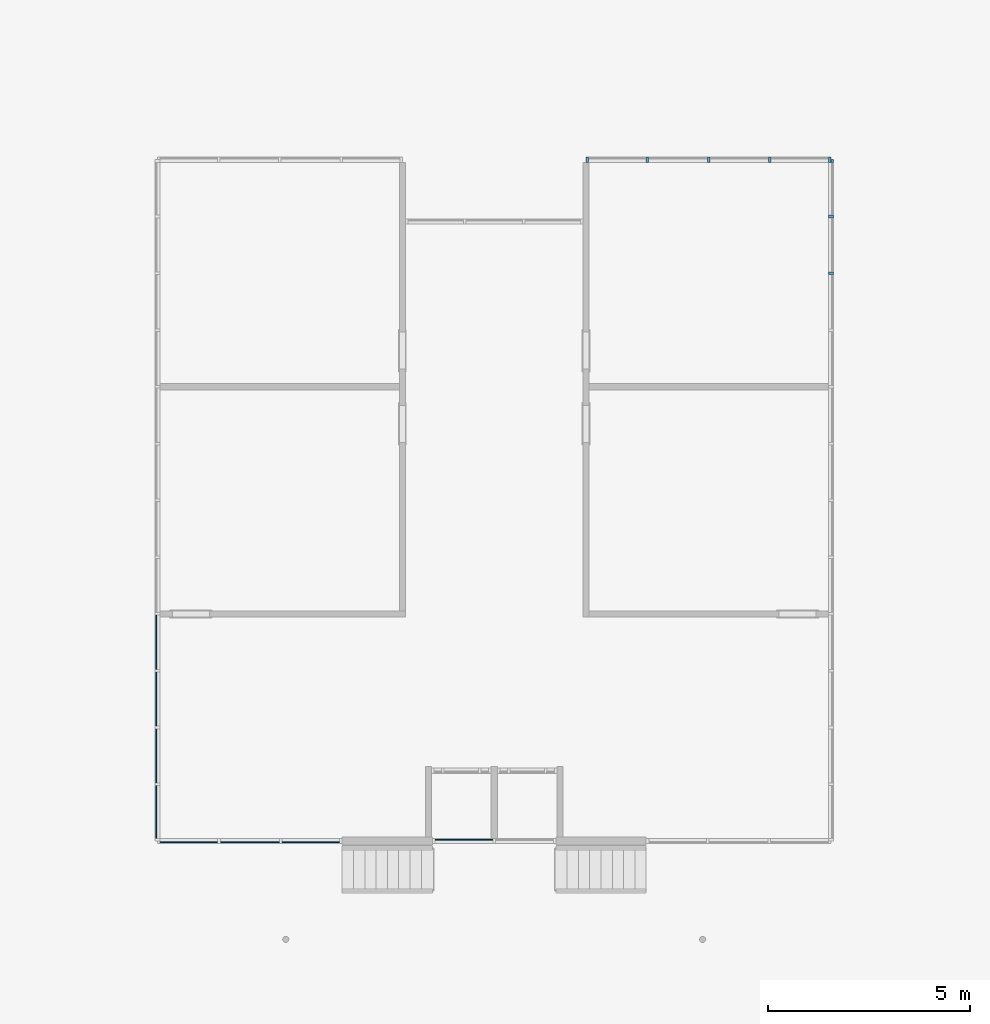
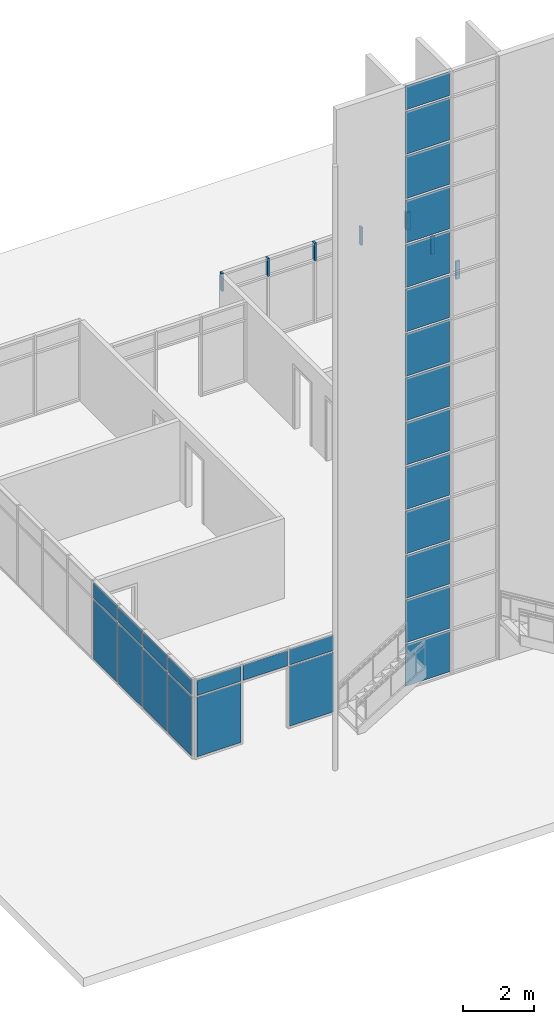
# One storey, part 6 of 12: 27 plates, 8 members, 5 elements without a shape of their own.
"""IFC2X3 building model written with IfcOpenShell, lengths in feet."""

from ifc_helpers import new_model, entity, si_unit, converted_unit, derived_unit, direction, frame, frame_2d, origin, origin_2d_with_axis, place, context, subcontext, project, spatial, rectangle, extrude, source, transform, mapped, material, layer, layer_set, layer_usage, type_object, type_shapes, element, aggregate, save


model = new_model("IFC2X3")

# Units and contexts
model_context = context("Model", 3, precision=0.0001, world=origin(), true_north=direction((6.12303176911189e-17, 1.0)))
body_context = subcontext(model_context, "Body", "Model", "MODEL_VIEW")
ifc_project = project(units=[converted_unit("LENGTHUNIT", "FOOT", entity("IfcRatioMeasure", 0.3048), si_unit("LENGTHUNIT", "METRE"), dimensions=[1, 0, 0, 0, 0, 0, 0]), converted_unit("AREAUNIT", "SQUARE FOOT", entity("IfcRatioMeasure", 0.09290304), si_unit("AREAUNIT", "SQUARE_METRE"), dimensions=[2, 0, 0, 0, 0, 0, 0]), converted_unit("VOLUMEUNIT", "CUBIC FOOT", entity("IfcRatioMeasure", 0.028316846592), si_unit("VOLUMEUNIT", "CUBIC_METRE"), dimensions=[3, 0, 0, 0, 0, 0, 0]), converted_unit("PLANEANGLEUNIT", "DEGREE", entity("IfcRatioMeasure", 0.0174532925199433), si_unit("PLANEANGLEUNIT", "RADIAN"), dimensions=[0, 0, 0, 0, 0, 0, 0]), si_unit("MASSUNIT", "GRAM", prefix="KILO"), derived_unit("MASSDENSITYUNIT", [(si_unit("MASSUNIT", "GRAM", prefix="KILO"), 1), (si_unit("LENGTHUNIT", "METRE"), -3)]), si_unit("TIMEUNIT", "SECOND"), si_unit("FREQUENCYUNIT", "HERTZ"), si_unit("THERMODYNAMICTEMPERATUREUNIT", "DEGREE_CELSIUS"), derived_unit("THERMALTRANSMITTANCEUNIT", [(si_unit("MASSUNIT", "GRAM", prefix="KILO"), 1), (si_unit("THERMODYNAMICTEMPERATUREUNIT", "KELVIN"), -1), (si_unit("TIMEUNIT", "SECOND"), -3)]), derived_unit("VOLUMETRICFLOWRATEUNIT", [(si_unit("LENGTHUNIT", "METRE"), 3), (si_unit("TIMEUNIT", "SECOND"), -1)]), si_unit("ELECTRICCURRENTUNIT", "AMPERE"), si_unit("ELECTRICVOLTAGEUNIT", "VOLT"), si_unit("POWERUNIT", "WATT"), si_unit("FORCEUNIT", "NEWTON"), si_unit("ILLUMINANCEUNIT", "LUX"), si_unit("LUMINOUSFLUXUNIT", "LUMEN"), si_unit("LUMINOUSINTENSITYUNIT", "CANDELA"), derived_unit("USERDEFINED", [(si_unit("MASSUNIT", "GRAM", prefix="KILO"), -1), (si_unit("LENGTHUNIT", "METRE"), -2), (si_unit("TIMEUNIT", "SECOND"), 3), (si_unit("LUMINOUSFLUXUNIT", "LUMEN"), 1)]), derived_unit("LINEARVELOCITYUNIT", [(si_unit("LENGTHUNIT", "METRE"), 1), (si_unit("TIMEUNIT", "SECOND"), -1)]), si_unit("PRESSUREUNIT", "PASCAL"), derived_unit("USERDEFINED", [(si_unit("LENGTHUNIT", "METRE"), -2), (si_unit("MASSUNIT", "GRAM", prefix="KILO"), 1), (si_unit("TIMEUNIT", "SECOND"), -2)])], contexts=[model_context])

# Site, building, storey
site_placement = place(None, origin())
site = spatial("IfcSite", under=ifc_project, at=site_placement, Name="Default", CompositionType="ELEMENT")
building_placement = place(site_placement, origin())
building = spatial("IfcBuilding", under=site, at=building_placement, CompositionType="ELEMENT")
storey_placement = place(building_placement, origin())
storey = spatial("IfcBuildingStorey", under=building, at=storey_placement, Name="Level 1", CompositionType="ELEMENT", Elevation=0.0)

# Curtain wall, member
curtain_wall_type_1 = type_object("IfcCurtainWallType", Name="Curtain Wall:Storefront 2", PredefinedType="NOTDEFINED")
curtain_wall_1_placement = place(storey_placement, origin())
curtain_wall_1 = element("IfcCurtainWall", 1, at=curtain_wall_1_placement, inside=storey, type_object=curtain_wall_type_1, Name="Curtain Wall:Storefront 2", ObjectType="Curtain Wall:Storefront 2")
ifc_material_1 = material(Name="Aluminum")
member_type_1 = type_object("IfcMemberType", Name="2.5\" x 5\" rectangular", PredefinedType="MEMBER")
shared_shape_1 = source(origin(), body_context, "Body", "SweptSolid", [
    extrude(rectangle(XDim=0.416666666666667, YDim=0.208333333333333, at=origin_2d_with_axis()), frame((-0.104166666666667, 0.0, -2.0), z_axis=(0.0, 0.0, 1.0), x_axis=(0.0, -1.0, 0.0)), (0.0, 0.0, 1.0), 2.0),
])
type_shapes(member_type_1, [shared_shape_1])
member_1_placement = place(storey_placement, frame((-6.65849610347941, 48.350525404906, 7.0), z_axis=(0.0, 0.0, -1.0), x_axis=(1.0, 0.0, 0.0)))
member_1 = element("IfcMember", 2, at=member_1_placement, type_object=member_type_1, material=ifc_material_1, Name="Rectangular Mullion:2.5\" x 5\" rectangular", ObjectType="2.5\" x 5\" rectangular", context=body_context, shape_type="MappedRepresentation", body=[
    mapped(shared_shape_1, transform((0.0, 0.0, 0.0), scale=1.0)),
])

curtain_wall_2_placement = place(storey_placement, origin())
curtain_wall_2 = element("IfcCurtainWall", 3, at=curtain_wall_2_placement, inside=storey, type_object=curtain_wall_type_1, Name="Curtain Wall:Storefront 2", ObjectType="Curtain Wall:Storefront 2")
member_type_2 = type_object("IfcMemberType", Name="2.5\" x 5\" rectangular", PredefinedType="MEMBER")
shared_shape_2 = source(origin(), body_context, "Body", "SweptSolid", [
    extrude(rectangle(XDim=0.416666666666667, YDim=0.208333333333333, at=origin_2d_with_axis()), frame((-0.104166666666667, 0.0, -2.0), z_axis=(0.0, 0.0, 1.0), x_axis=(0.0, -1.0, 0.0)), (0.0, 0.0, 1.0), 2.0),
])
type_shapes(member_type_2, [shared_shape_2])
member_2_placement = place(storey_placement, frame((-6.65849610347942, 48.350525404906, 9.0), z_axis=(0.0, 0.0, 1.0), x_axis=(0.0, 1.0, 0.0)))
member_2 = element("IfcMember", 4, at=member_2_placement, type_object=member_type_2, material=ifc_material_1, Name="Rectangular Mullion:2.5\" x 5\" rectangular", ObjectType="2.5\" x 5\" rectangular", context=body_context, shape_type="MappedRepresentation", body=[
    mapped(shared_shape_2, transform((0.0, 0.0, 0.0), scale=1.0)),
])

# Member
member_3_placement = place(storey_placement, frame((-26.5372839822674, 48.350525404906, 9.0), z_axis=(0.0, 0.0, 1.0), x_axis=(-1.0, 0.0, 0.0)))
member_3 = element("IfcMember", 5, at=member_3_placement, type_object=member_type_2, material=ifc_material_1, Name="Rectangular Mullion:2.5\" x 5\" rectangular", ObjectType="2.5\" x 5\" rectangular", context=body_context, shape_type="MappedRepresentation", body=[
    mapped(shared_shape_2, transform((0.0, 0.0, 0.0), scale=1.0)),
])

member_type_3 = type_object("IfcMemberType", Name="2.5\" x 5\" rectangular", PredefinedType="MEMBER")
shared_shape_3 = source(origin(), body_context, "Body", "SweptSolid", [
    extrude(rectangle(XDim=0.416666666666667, YDim=0.208333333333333, at=origin_2d_with_axis()), frame((0.0, 0.0, -2.0), z_axis=(0.0, 0.0, 1.0), x_axis=(0.0, -1.0, 0.0)), (0.0, 0.0, 1.0), 2.0),
])
type_shapes(member_type_3, [shared_shape_3])
member_4_placement = place(storey_placement, frame((-6.65849610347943, 43.7428865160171, 7.0), z_axis=(0.0, 0.0, -1.0), x_axis=(0.0, -1.0, 0.0)))
member_4 = element("IfcMember", 6, at=member_4_placement, type_object=member_type_3, material=ifc_material_1, Name="Rectangular Mullion:2.5\" x 5\" rectangular", ObjectType="2.5\" x 5\" rectangular", context=body_context, shape_type="MappedRepresentation", body=[
    mapped(shared_shape_3, transform((0.0, 0.0, 0.0), scale=1.0)),
])

member_5_placement = place(storey_placement, frame((-6.65849610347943, 39.1352476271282, 7.0), z_axis=(0.0, 0.0, -1.0), x_axis=(0.0, -1.0, 0.0)))
member_5 = element("IfcMember", 7, at=member_5_placement, type_object=member_type_3, material=ifc_material_1, Name="Rectangular Mullion:2.5\" x 5\" rectangular", ObjectType="2.5\" x 5\" rectangular", context=body_context, shape_type="MappedRepresentation", body=[
    mapped(shared_shape_3, transform((0.0, 0.0, 0.0), scale=1.0)),
])

aggregate(curtain_wall_2, [member_2, member_4, member_5])

member_6_placement = place(storey_placement, frame((-21.5675870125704, 48.350525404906, 7.0), z_axis=(0.0, 0.0, -1.0), x_axis=(1.0, 0.0, 0.0)))
member_6 = element("IfcMember", 8, at=member_6_placement, type_object=member_type_3, material=ifc_material_1, Name="Rectangular Mullion:2.5\" x 5\" rectangular", ObjectType="2.5\" x 5\" rectangular", context=body_context, shape_type="MappedRepresentation", body=[
    mapped(shared_shape_3, transform((0.0, 0.0, 0.0), scale=1.0)),
])

member_7_placement = place(storey_placement, frame((-16.5978900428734, 48.350525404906, 7.0), z_axis=(0.0, 0.0, -1.0), x_axis=(1.0, 0.0, 0.0)))
member_7 = element("IfcMember", 9, at=member_7_placement, type_object=member_type_3, material=ifc_material_1, Name="Rectangular Mullion:2.5\" x 5\" rectangular", ObjectType="2.5\" x 5\" rectangular", context=body_context, shape_type="MappedRepresentation", body=[
    mapped(shared_shape_3, transform((0.0, 0.0, 0.0), scale=1.0)),
])

member_8_placement = place(storey_placement, frame((-11.6281930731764, 48.350525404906, 7.0), z_axis=(0.0, 0.0, -1.0), x_axis=(1.0, 0.0, 0.0)))
member_8 = element("IfcMember", 10, at=member_8_placement, type_object=member_type_3, material=ifc_material_1, Name="Rectangular Mullion:2.5\" x 5\" rectangular", ObjectType="2.5\" x 5\" rectangular", context=body_context, shape_type="MappedRepresentation", body=[
    mapped(shared_shape_3, transform((0.0, 0.0, 0.0), scale=1.0)),
])

aggregate(curtain_wall_1, [member_1, member_3, member_6, member_7, member_8])

# Curtain wall, plates
curtain_wall_type_2 = type_object("IfcCurtainWallType", Name="Curtain Wall:Storefront", PredefinedType="NOTDEFINED")
curtain_wall_3_placement = place(storey_placement, origin())
curtain_wall_3 = element("IfcCurtainWall", 11, at=curtain_wall_3_placement, inside=storey, type_object=curtain_wall_type_2, Name="Curtain Wall:Storefront", ObjectType="Curtain Wall:Storefront")
ifc_material_2 = material(Name="<Unnamed>")
ifc_layer = layer(ifc_material_2, 0.0833333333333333)
ifc_layer_set = layer_set([ifc_layer], Name="Curtain Wall:Storefront")
ifc_layer_usage_1 = layer_usage(ifc_layer_set, "AXIS3", "POSITIVE", 0.104166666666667)
plate_type_1 = type_object("IfcPlateType", Name="Glazed", PredefinedType="CURTAIN_PANEL", material=ifc_layer_set)
shared_shape_4 = source(origin(), body_context, "Body", "SweptSolid", [
    extrude(rectangle(XDim=0.0833333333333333, YDim=4.6875, at=frame_2d((-6.93889390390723e-18, 0.0), x_axis=(1.0, 0.0))), frame((0.0, 0.104166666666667, 0.0), z_axis=(0.0, 0.0, 1.0), x_axis=(0.0, 1.0, 0.0)), (0.0, 0.0, 1.0), 4.6875),
])
type_shapes(plate_type_1, [shared_shape_4])
plate_1_placement = place(curtain_wall_3_placement, frame((-36.4397461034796, -6.9411412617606, 0.208333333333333)))
plate_1 = element("IfcPlate", 12, at=plate_1_placement, type_object=plate_type_1, material=ifc_layer_usage_1, Name="System Panel:Glazed", ObjectType="Glazed", context=body_context, shape_type="MappedRepresentation", body=[
    mapped(shared_shape_4, transform((0.0, 0.0, 0.0), scale=1.0)),
])
ifc_layer_usage_2 = layer_usage(ifc_layer_set, "AXIS3", "POSITIVE", 0.104166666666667)
plate_type_2 = type_object("IfcPlateType", Name="Glazed", PredefinedType="CURTAIN_PANEL", material=ifc_layer_set)
shared_shape_5 = source(origin(), body_context, "Body", "SweptSolid", [
    extrude(rectangle(XDim=0.0833333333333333, YDim=4.6875, at=frame_2d((-6.93889390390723e-18, 0.0), x_axis=(1.0, 0.0))), frame((0.0, 0.104166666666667, 0.0), z_axis=(0.0, 0.0, 1.0), x_axis=(0.0, 1.0, 0.0)), (0.0, 0.0, 1.0), 4.79166666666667),
])
type_shapes(plate_type_2, [shared_shape_5])
plate_2_placement = place(curtain_wall_3_placement, frame((-36.4397461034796, -6.9411412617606, 5.10416666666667)))
plate_2 = element("IfcPlate", 13, at=plate_2_placement, type_object=plate_type_2, material=ifc_layer_usage_2, Name="System Panel:Glazed", ObjectType="Glazed", context=body_context, shape_type="MappedRepresentation", body=[
    mapped(shared_shape_5, transform((0.0, 0.0, 0.0), scale=1.0)),
])
ifc_layer_usage_3 = layer_usage(ifc_layer_set, "AXIS3", "POSITIVE", 0.104166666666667)
plate_3_placement = place(curtain_wall_3_placement, frame((-36.4397461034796, -6.9411412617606, 10.1041666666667)))
plate_3 = element("IfcPlate", 14, at=plate_3_placement, type_object=plate_type_2, material=ifc_layer_usage_3, Name="System Panel:Glazed", ObjectType="Glazed", context=body_context, shape_type="MappedRepresentation", body=[
    mapped(shared_shape_5, transform((0.0, 0.0, 0.0), scale=1.0)),
])
ifc_layer_usage_4 = layer_usage(ifc_layer_set, "AXIS3", "POSITIVE", 0.104166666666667)
plate_4_placement = place(curtain_wall_3_placement, frame((-36.4397461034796, -6.9411412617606, 15.1041666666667)))
plate_4 = element("IfcPlate", 15, at=plate_4_placement, type_object=plate_type_2, material=ifc_layer_usage_4, Name="System Panel:Glazed", ObjectType="Glazed", context=body_context, shape_type="MappedRepresentation", body=[
    mapped(shared_shape_5, transform((0.0, 0.0, 0.0), scale=1.0)),
])
ifc_layer_usage_5 = layer_usage(ifc_layer_set, "AXIS3", "POSITIVE", 0.104166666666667)
plate_5_placement = place(curtain_wall_3_placement, frame((-36.4397461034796, -6.9411412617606, 20.1041666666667)))
plate_5 = element("IfcPlate", 16, at=plate_5_placement, type_object=plate_type_2, material=ifc_layer_usage_5, Name="System Panel:Glazed", ObjectType="Glazed", context=body_context, shape_type="MappedRepresentation", body=[
    mapped(shared_shape_5, transform((0.0, 0.0, 0.0), scale=1.0)),
])
ifc_layer_usage_6 = layer_usage(ifc_layer_set, "AXIS3", "POSITIVE", 0.104166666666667)
plate_6_placement = place(curtain_wall_3_placement, frame((-36.4397461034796, -6.9411412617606, 25.1041666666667)))
plate_6 = element("IfcPlate", 17, at=plate_6_placement, type_object=plate_type_2, material=ifc_layer_usage_6, Name="System Panel:Glazed", ObjectType="Glazed", context=body_context, shape_type="MappedRepresentation", body=[
    mapped(shared_shape_5, transform((0.0, 0.0, 0.0), scale=1.0)),
])
ifc_layer_usage_7 = layer_usage(ifc_layer_set, "AXIS3", "POSITIVE", 0.104166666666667)
plate_7_placement = place(curtain_wall_3_placement, frame((-36.4397461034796, -6.9411412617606, 30.1041666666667)))
plate_7 = element("IfcPlate", 18, at=plate_7_placement, type_object=plate_type_2, material=ifc_layer_usage_7, Name="System Panel:Glazed", ObjectType="Glazed", context=body_context, shape_type="MappedRepresentation", body=[
    mapped(shared_shape_5, transform((0.0, 0.0, 0.0), scale=1.0)),
])
ifc_layer_usage_8 = layer_usage(ifc_layer_set, "AXIS3", "POSITIVE", 0.104166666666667)
plate_8_placement = place(curtain_wall_3_placement, frame((-36.4397461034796, -6.9411412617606, 35.1041666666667)))
plate_8 = element("IfcPlate", 19, at=plate_8_placement, type_object=plate_type_2, material=ifc_layer_usage_8, Name="System Panel:Glazed", ObjectType="Glazed", context=body_context, shape_type="MappedRepresentation", body=[
    mapped(shared_shape_5, transform((0.0, 0.0, 0.0), scale=1.0)),
])
ifc_layer_usage_9 = layer_usage(ifc_layer_set, "AXIS3", "POSITIVE", 0.104166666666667)
plate_9_placement = place(curtain_wall_3_placement, frame((-36.4397461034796, -6.9411412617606, 40.1041666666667)))
plate_9 = element("IfcPlate", 20, at=plate_9_placement, type_object=plate_type_2, material=ifc_layer_usage_9, Name="System Panel:Glazed", ObjectType="Glazed", context=body_context, shape_type="MappedRepresentation", body=[
    mapped(shared_shape_5, transform((0.0, 0.0, 0.0), scale=1.0)),
])
ifc_layer_usage_10 = layer_usage(ifc_layer_set, "AXIS3", "POSITIVE", 0.104166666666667)
plate_10_placement = place(curtain_wall_3_placement, frame((-36.4397461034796, -6.9411412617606, 45.1041666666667)))
plate_10 = element("IfcPlate", 21, at=plate_10_placement, type_object=plate_type_2, material=ifc_layer_usage_10, Name="System Panel:Glazed", ObjectType="Glazed", context=body_context, shape_type="MappedRepresentation", body=[
    mapped(shared_shape_5, transform((0.0, 0.0, 0.0), scale=1.0)),
])
ifc_layer_usage_11 = layer_usage(ifc_layer_set, "AXIS3", "POSITIVE", 0.104166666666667)
plate_11_placement = place(curtain_wall_3_placement, frame((-36.4397461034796, -6.9411412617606, 50.1041666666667)))
plate_11 = element("IfcPlate", 22, at=plate_11_placement, type_object=plate_type_2, material=ifc_layer_usage_11, Name="System Panel:Glazed", ObjectType="Glazed", context=body_context, shape_type="MappedRepresentation", body=[
    mapped(shared_shape_5, transform((0.0, 0.0, 0.0), scale=1.0)),
])
ifc_layer_usage_12 = layer_usage(ifc_layer_set, "AXIS3", "POSITIVE", 0.104166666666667)
plate_12_placement = place(curtain_wall_3_placement, frame((-36.4397461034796, -6.9411412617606, 55.1041666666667)))
plate_12 = element("IfcPlate", 23, at=plate_12_placement, type_object=plate_type_2, material=ifc_layer_usage_12, Name="System Panel:Glazed", ObjectType="Glazed", context=body_context, shape_type="MappedRepresentation", body=[
    mapped(shared_shape_5, transform((0.0, 0.0, 0.0), scale=1.0)),
])
ifc_layer_usage_13 = layer_usage(ifc_layer_set, "AXIS3", "POSITIVE", 0.104166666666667)
plate_13_placement = place(curtain_wall_3_placement, frame((-36.4397461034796, -6.9411412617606, 60.1041666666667)))
plate_13 = element("IfcPlate", 24, at=plate_13_placement, type_object=plate_type_2, material=ifc_layer_usage_13, Name="System Panel:Glazed", ObjectType="Glazed", context=body_context, shape_type="MappedRepresentation", body=[
    mapped(shared_shape_5, transform((0.0, 0.0, 0.0), scale=1.0)),
])
ifc_layer_usage_14 = layer_usage(ifc_layer_set, "AXIS3", "POSITIVE", 0.104166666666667)
plate_type_3 = type_object("IfcPlateType", Name="Glazed", PredefinedType="CURTAIN_PANEL", material=ifc_layer_set)
shared_shape_6 = source(origin(), body_context, "Body", "SweptSolid", [
    extrude(rectangle(XDim=0.0833333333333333, YDim=4.6875, at=frame_2d((-6.93889390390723e-18, 0.0), x_axis=(1.0, 0.0))), frame((0.0, 0.104166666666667, 0.0), z_axis=(0.0, 0.0, 1.0), x_axis=(0.0, 1.0, 0.0)), (0.0, 0.0, 1.0), 2.6875),
])
type_shapes(plate_type_3, [shared_shape_6])
plate_14_placement = place(curtain_wall_3_placement, frame((-36.4397461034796, -6.9411412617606, 65.1041666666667)))
plate_14 = element("IfcPlate", 25, at=plate_14_placement, type_object=plate_type_3, material=ifc_layer_usage_14, Name="System Panel:Glazed", ObjectType="Glazed", context=body_context, shape_type="MappedRepresentation", body=[
    mapped(shared_shape_6, transform((0.0, 0.0, 0.0), scale=1.0)),
])
aggregate(curtain_wall_3, [plate_1, plate_2, plate_3, plate_4, plate_5, plate_6, plate_7, plate_8, plate_9, plate_10, plate_11, plate_12, plate_13, plate_14])

curtain_wall_4_placement = place(storey_placement, origin())
curtain_wall_4 = element("IfcCurtainWall", 26, at=curtain_wall_4_placement, inside=storey, type_object=curtain_wall_type_1, Name="Curtain Wall:Storefront 2", ObjectType="Curtain Wall:Storefront 2")
ifc_layer_usage_15 = layer_usage(ifc_layer_set, "AXIS3", "POSITIVE", 0.104166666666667)
plate_type_4 = type_object("IfcPlateType", Name="Glazed", PredefinedType="CURTAIN_PANEL", material=ifc_layer_set)
shared_shape_7 = source(origin(), body_context, "Body", "SweptSolid", [
    extrude(rectangle(XDim=0.0833333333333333, YDim=4.6875, at=frame_2d((-6.93889390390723e-18, 0.0), x_axis=(1.0, 0.0))), frame((0.0, 0.104166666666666, 0.0), z_axis=(0.0, 0.0, 1.0), x_axis=(0.0, 1.0, 0.0)), (0.0, 0.0, 1.0), 6.6875),
])
type_shapes(plate_type_4, [shared_shape_7])
plate_15_placement = place(curtain_wall_4_placement, frame((-48.8772461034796, -6.94114126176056, 0.208333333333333), z_axis=(0.0, 0.0, 1.0), x_axis=(-1.0, 0.0, 0.0)))
plate_15 = element("IfcPlate", 27, at=plate_15_placement, type_object=plate_type_4, material=ifc_layer_usage_15, Name="System Panel:Glazed", ObjectType="Glazed", context=body_context, shape_type="MappedRepresentation", body=[
    mapped(shared_shape_7, transform((0.0, 0.0, 0.0), scale=1.0)),
])
ifc_layer_usage_16 = layer_usage(ifc_layer_set, "AXIS3", "POSITIVE", 0.104166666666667)
plate_16_placement = place(curtain_wall_4_placement, frame((-58.7730794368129, -6.94114126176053, 0.208333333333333), z_axis=(0.0, 0.0, 1.0), x_axis=(-1.0, 0.0, 0.0)))
plate_16 = element("IfcPlate", 28, at=plate_16_placement, type_object=plate_type_4, material=ifc_layer_usage_16, Name="System Panel:Glazed", ObjectType="Glazed", context=body_context, shape_type="MappedRepresentation", body=[
    mapped(shared_shape_7, transform((0.0, 0.0, 0.0), scale=1.0)),
])
ifc_layer_usage_17 = layer_usage(ifc_layer_set, "AXIS3", "POSITIVE", 0.104166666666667)
plate_type_5 = type_object("IfcPlateType", Name="Glazed", PredefinedType="CURTAIN_PANEL", material=ifc_layer_set)
shared_shape_8 = source(origin(), body_context, "Body", "SweptSolid", [
    extrude(rectangle(XDim=0.0833333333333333, YDim=4.6875, at=frame_2d((-6.93889390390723e-18, 0.0), x_axis=(1.0, 0.0))), frame((0.0, 0.104166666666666, 0.0), z_axis=(0.0, 0.0, 1.0), x_axis=(0.0, 1.0, 0.0)), (0.0, 0.0, 1.0), 1.6875),
])
type_shapes(plate_type_5, [shared_shape_8])
plate_17_placement = place(curtain_wall_4_placement, frame((-48.8772461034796, -6.94114126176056, 7.10416666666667), z_axis=(0.0, 0.0, 1.0), x_axis=(-1.0, 0.0, 0.0)))
plate_17 = element("IfcPlate", 29, at=plate_17_placement, type_object=plate_type_5, material=ifc_layer_usage_17, Name="System Panel:Glazed", ObjectType="Glazed", context=body_context, shape_type="MappedRepresentation", body=[
    mapped(shared_shape_8, transform((0.0, 0.0, 0.0), scale=1.0)),
])
ifc_layer_usage_18 = layer_usage(ifc_layer_set, "AXIS3", "POSITIVE", 0.104166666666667)
plate_18_placement = place(curtain_wall_4_placement, frame((-58.7730794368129, -6.94114126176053, 7.10416666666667), z_axis=(0.0, 0.0, 1.0), x_axis=(-1.0, 0.0, 0.0)))
plate_18 = element("IfcPlate", 30, at=plate_18_placement, type_object=plate_type_5, material=ifc_layer_usage_18, Name="System Panel:Glazed", ObjectType="Glazed", context=body_context, shape_type="MappedRepresentation", body=[
    mapped(shared_shape_8, transform((0.0, 0.0, 0.0), scale=1.0)),
])
ifc_layer_usage_19 = layer_usage(ifc_layer_set, "AXIS3", "POSITIVE", 0.104166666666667)
plate_type_6 = type_object("IfcPlateType", Name="Glazed", PredefinedType="CURTAIN_PANEL", material=ifc_layer_set)
shared_shape_9 = source(origin(), body_context, "Body", "SweptSolid", [
    extrude(rectangle(XDim=0.0833333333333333, YDim=4.79166666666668, at=frame_2d((-6.93889390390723e-18, 0.0), x_axis=(1.0, 0.0))), frame((0.0, 0.104166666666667, 0.0), z_axis=(0.0, 0.0, 1.0), x_axis=(0.0, 1.0, 0.0)), (0.0, 0.0, 1.0), 1.6875),
])
type_shapes(plate_type_6, [shared_shape_9])
plate_19_placement = place(curtain_wall_4_placement, frame((-53.8251627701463, -6.94114126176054, 7.10416666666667), z_axis=(0.0, 0.0, 1.0), x_axis=(-1.0, 0.0, 0.0)))
plate_19 = element("IfcPlate", 31, at=plate_19_placement, type_object=plate_type_6, material=ifc_layer_usage_19, Name="System Panel:Glazed", ObjectType="Glazed", context=body_context, shape_type="MappedRepresentation", body=[
    mapped(shared_shape_9, transform((0.0, 0.0, 0.0), scale=1.0)),
])
aggregate(curtain_wall_4, [plate_15, plate_16, plate_17, plate_19, plate_18])

curtain_wall_5_placement = place(storey_placement, origin())
curtain_wall_5 = element("IfcCurtainWall", 32, at=curtain_wall_5_placement, inside=storey, type_object=curtain_wall_type_1, Name="Curtain Wall:Storefront 2", ObjectType="Curtain Wall:Storefront 2")
ifc_layer_usage_20 = layer_usage(ifc_layer_set, "AXIS3", "POSITIVE", 0.104166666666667)
plate_type_7 = type_object("IfcPlateType", Name="Glazed", PredefinedType="CURTAIN_PANEL", material=ifc_layer_set)
shared_shape_10 = source(origin(), body_context, "Body", "SweptSolid", [
    extrude(rectangle(XDim=0.0833333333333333, YDim=4.29513888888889, at=frame_2d((-6.93889390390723e-18, 0.0), x_axis=(1.0, 0.0))), frame((0.0, 0.104166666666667, 0.0), z_axis=(0.0, 0.0, 1.0), x_axis=(0.0, 1.0, 0.0)), (0.0, 0.0, 1.0), 6.6875),
])
type_shapes(plate_type_7, [shared_shape_10])
plate_20_placement = place(curtain_wall_5_placement, frame((-61.3251627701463, -4.58523848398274, 0.208333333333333), z_axis=(0.0, 0.0, 1.0), x_axis=(0.0, 1.0, 0.0)))
plate_20 = element("IfcPlate", 33, at=plate_20_placement, type_object=plate_type_7, material=ifc_layer_usage_20, Name="System Panel:Glazed", ObjectType="Glazed", context=body_context, shape_type="MappedRepresentation", body=[
    mapped(shared_shape_10, transform((0.0, 0.0, 0.0), scale=1.0)),
])
ifc_layer_usage_21 = layer_usage(ifc_layer_set, "AXIS3", "POSITIVE", 0.104166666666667)
plate_type_8 = type_object("IfcPlateType", Name="Glazed", PredefinedType="CURTAIN_PANEL", material=ifc_layer_set)
shared_shape_11 = source(origin(), body_context, "Body", "SweptSolid", [
    extrude(rectangle(XDim=0.0833333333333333, YDim=4.39930555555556, at=frame_2d((-6.93889390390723e-18, 0.0), x_axis=(1.0, 0.0))), frame((0.0, 0.104166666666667, 0.0), z_axis=(0.0, 0.0, 1.0), x_axis=(0.0, 1.0, 0.0)), (0.0, 0.0, 1.0), 6.6875),
])
type_shapes(plate_type_8, [shared_shape_11])
plate_21_placement = place(curtain_wall_5_placement, frame((-61.3251627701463, -0.0296829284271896, 0.208333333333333), z_axis=(0.0, 0.0, 1.0), x_axis=(0.0, 1.0, 0.0)))
plate_21 = element("IfcPlate", 34, at=plate_21_placement, type_object=plate_type_8, material=ifc_layer_usage_21, Name="System Panel:Glazed", ObjectType="Glazed", context=body_context, shape_type="MappedRepresentation", body=[
    mapped(shared_shape_11, transform((0.0, 0.0, 0.0), scale=1.0)),
])
ifc_layer_usage_22 = layer_usage(ifc_layer_set, "AXIS3", "POSITIVE", 0.104166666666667)
plate_22_placement = place(curtain_wall_5_placement, frame((-61.3251627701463, 4.5779559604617, 0.208333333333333), z_axis=(0.0, 0.0, 1.0), x_axis=(0.0, 1.0, 0.0)))
plate_22 = element("IfcPlate", 35, at=plate_22_placement, type_object=plate_type_8, material=ifc_layer_usage_22, Name="System Panel:Glazed", ObjectType="Glazed", context=body_context, shape_type="MappedRepresentation", body=[
    mapped(shared_shape_11, transform((0.0, 0.0, 0.0), scale=1.0)),
])
ifc_layer_usage_23 = layer_usage(ifc_layer_set, "AXIS3", "POSITIVE", 0.104166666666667)
plate_23_placement = place(curtain_wall_5_placement, frame((-61.3251627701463, 9.18559484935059, 0.208333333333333), z_axis=(0.0, 0.0, 1.0), x_axis=(0.0, 1.0, 0.0)))
plate_23 = element("IfcPlate", 36, at=plate_23_placement, type_object=plate_type_8, material=ifc_layer_usage_23, Name="System Panel:Glazed", ObjectType="Glazed", context=body_context, shape_type="MappedRepresentation", body=[
    mapped(shared_shape_11, transform((0.0, 0.0, 0.0), scale=1.0)),
])
ifc_layer_usage_24 = layer_usage(ifc_layer_set, "AXIS3", "POSITIVE", 0.104166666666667)
plate_type_9 = type_object("IfcPlateType", Name="Glazed", PredefinedType="CURTAIN_PANEL", material=ifc_layer_set)
shared_shape_12 = source(origin(), body_context, "Body", "SweptSolid", [
    extrude(rectangle(XDim=0.0833333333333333, YDim=4.29513888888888, at=frame_2d((-6.93889390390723e-18, 0.0), x_axis=(1.0, 0.0))), frame((0.0, 0.104166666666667, 0.0), z_axis=(0.0, 0.0, 1.0), x_axis=(0.0, 1.0, 0.0)), (0.0, 0.0, 1.0), 1.6875),
])
type_shapes(plate_type_9, [shared_shape_12])
plate_24_placement = place(curtain_wall_5_placement, frame((-61.3251627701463, -4.58523848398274, 7.10416666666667), z_axis=(0.0, 0.0, 1.0), x_axis=(0.0, 1.0, 0.0)))
plate_24 = element("IfcPlate", 37, at=plate_24_placement, type_object=plate_type_9, material=ifc_layer_usage_24, Name="System Panel:Glazed", ObjectType="Glazed", context=body_context, shape_type="MappedRepresentation", body=[
    mapped(shared_shape_12, transform((0.0, 0.0, 0.0), scale=1.0)),
])
ifc_layer_usage_25 = layer_usage(ifc_layer_set, "AXIS3", "POSITIVE", 0.104166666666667)
plate_type_10 = type_object("IfcPlateType", Name="Glazed", PredefinedType="CURTAIN_PANEL", material=ifc_layer_set)
shared_shape_13 = source(origin(), body_context, "Body", "SweptSolid", [
    extrude(rectangle(XDim=0.0833333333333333, YDim=4.39930555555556, at=frame_2d((-6.93889390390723e-18, 0.0), x_axis=(1.0, 0.0))), frame((0.0, 0.104166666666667, 0.0), z_axis=(0.0, 0.0, 1.0), x_axis=(0.0, 1.0, 0.0)), (0.0, 0.0, 1.0), 1.6875),
])
type_shapes(plate_type_10, [shared_shape_13])
plate_25_placement = place(curtain_wall_5_placement, frame((-61.3251627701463, -0.0296829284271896, 7.10416666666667), z_axis=(0.0, 0.0, 1.0), x_axis=(0.0, 1.0, 0.0)))
plate_25 = element("IfcPlate", 38, at=plate_25_placement, type_object=plate_type_10, material=ifc_layer_usage_25, Name="System Panel:Glazed", ObjectType="Glazed", context=body_context, shape_type="MappedRepresentation", body=[
    mapped(shared_shape_13, transform((0.0, 0.0, 0.0), scale=1.0)),
])
ifc_layer_usage_26 = layer_usage(ifc_layer_set, "AXIS3", "POSITIVE", 0.104166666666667)
plate_26_placement = place(curtain_wall_5_placement, frame((-61.3251627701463, 4.5779559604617, 7.10416666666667), z_axis=(0.0, 0.0, 1.0), x_axis=(0.0, 1.0, 0.0)))
plate_26 = element("IfcPlate", 39, at=plate_26_placement, type_object=plate_type_10, material=ifc_layer_usage_26, Name="System Panel:Glazed", ObjectType="Glazed", context=body_context, shape_type="MappedRepresentation", body=[
    mapped(shared_shape_13, transform((0.0, 0.0, 0.0), scale=1.0)),
])
ifc_layer_usage_27 = layer_usage(ifc_layer_set, "AXIS3", "POSITIVE", 0.104166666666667)
plate_27_placement = place(curtain_wall_5_placement, frame((-61.3251627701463, 9.18559484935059, 7.10416666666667), z_axis=(0.0, 0.0, 1.0), x_axis=(0.0, 1.0, 0.0)))
plate_27 = element("IfcPlate", 40, at=plate_27_placement, type_object=plate_type_10, material=ifc_layer_usage_27, Name="System Panel:Glazed", ObjectType="Glazed", context=body_context, shape_type="MappedRepresentation", body=[
    mapped(shared_shape_13, transform((0.0, 0.0, 0.0), scale=1.0)),
])
aggregate(curtain_wall_5, [plate_20, plate_21, plate_22, plate_23, plate_24, plate_25, plate_26, plate_27])

save(model, "model.ifc")
